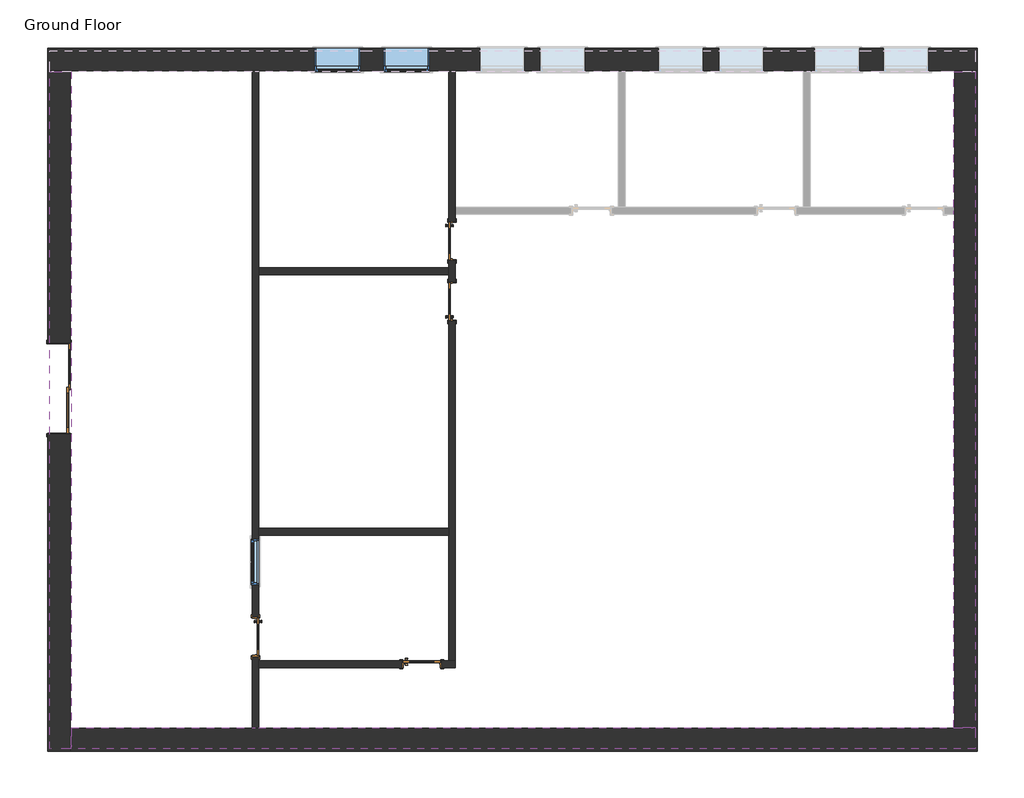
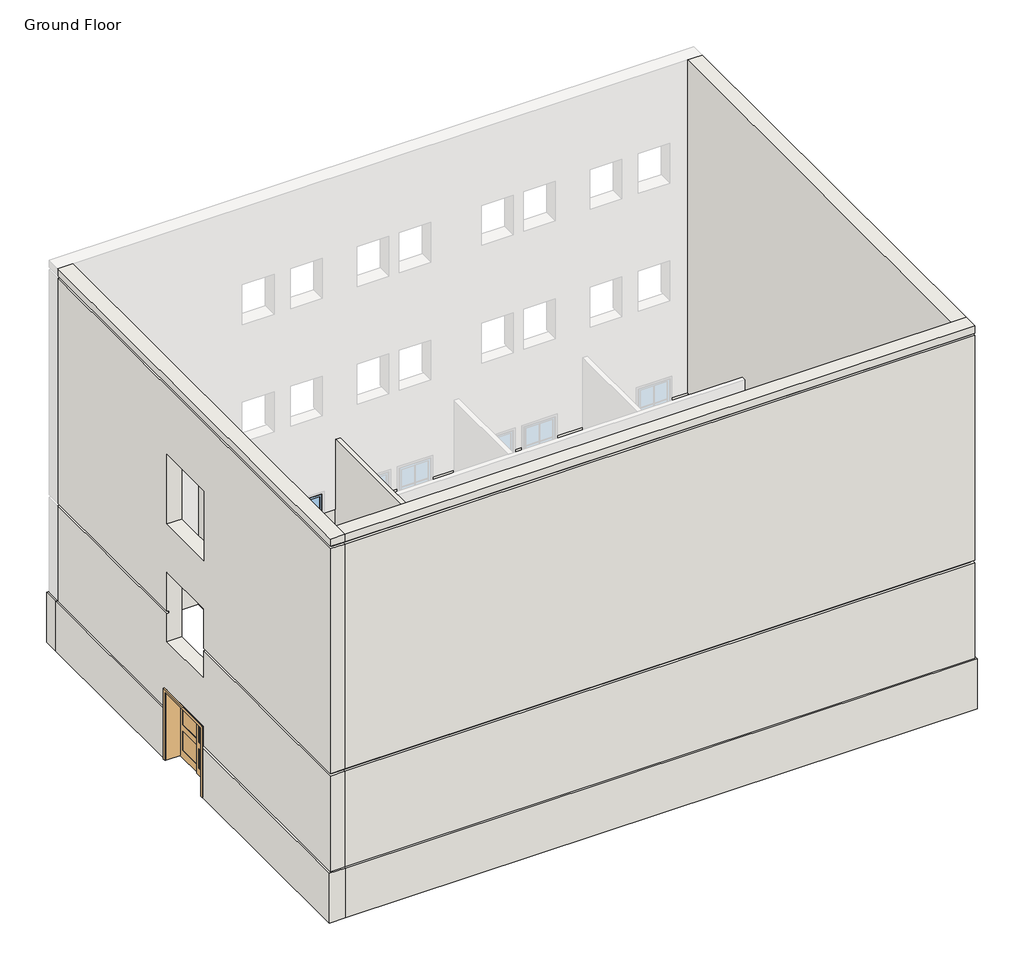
# One storey, part 1 of 2: 12 walls, 5 doors, 3 windows.
"""IFC4 building model written with IfcOpenShell, lengths in millimetres."""

from ifc_helpers import new_model, si_unit, origin, origin_with_axes, place, context, project, spatial, polyline, outline, extrude, faceted_brep, transform, mapped, element, save
from components import m_door_interior_double_sliding_2_panel_wood_1800_x_2100mm_ffb2e57d, m_door_interior_single_full_glass_wood_750_x_2100mm_ded28596, m_door_interior_single_full_glass_wood_750_x_2100mm_01f99739, window_awning_single_915_x_1220_b06b9331, window_awning_single_915_x_1220_806fc205

model = new_model("IFC4")

# Units and contexts
model_context = context("Model", 3, world=origin())
ifc_project = project(units=[si_unit("LENGTHUNIT", "METRE", prefix="MILLI")], contexts=[model_context])

# Site, building, storey
site = spatial("IfcSite", under=ifc_project)
building = spatial("IfcBuilding", under=site)
storey = spatial("IfcBuildingStorey", under=building, Name="Ground Floor", Elevation=0.0)

# Doors
placement = place(None, origin())
m_door_interior_double_sliding_2_panel_wood_1800_x_2100mm_shape = m_door_interior_double_sliding_2_panel_wood_1800_x_2100mm_ffb2e57d(model_context)
element("IfcDoor", 1, ObjectType="M_Door-Interior-Double-Sliding-2_Panel-Wood : 1800 x 2100mm", at=placement, inside=storey, context=model_context, shape_type="MappedRepresentation", body=[
    mapped(m_door_interior_double_sliding_2_panel_wood_1800_x_2100mm_shape, transform((-17269.6350037, -1306.0811162, 0.0), x_axis=(0.0, -1.0, 0.0), y_axis=(1.0, 0.0, 0.0), z_axis=(0.0, 0.0, 1.0))),
])
m_door_interior_single_full_glass_wood_750_x_2100mm_shape = m_door_interior_single_full_glass_wood_750_x_2100mm_ded28596(model_context)
element("IfcDoor", 2, ObjectType="M_Door-Interior-Single-Full Glass-Wood : 750 x 2100mm", at=placement, inside=storey, context=model_context, shape_type="MappedRepresentation", body=[
    mapped(m_door_interior_single_full_glass_wood_750_x_2100mm_shape, transform((-13307.6350037, -6311.9136534, 0.0), x_axis=(0.0, -1.0, 0.0), y_axis=(1.0, 0.0, 0.0), z_axis=(0.0, 0.0, 1.0))),
])
element("IfcDoor", 3, ObjectType="M_Door-Interior-Single-Full Glass-Wood : 750 x 2100mm", at=placement, inside=storey, context=model_context, shape_type="MappedRepresentation", body=[
    mapped(m_door_interior_single_full_glass_wood_750_x_2100mm_shape, transform((-9958.4100037, -6860.5886534, 0.0), x_axis=(1.0, 0.0, 0.0), y_axis=(0.0, 1.0, 0.0), z_axis=(0.0, 0.0, 1.0))),
])
element("IfcDoor", 4, ObjectType="M_Door-Interior-Single-Full Glass-Wood : 750 x 2100mm", at=placement, inside=storey, context=model_context, shape_type="MappedRepresentation", body=[
    mapped(m_door_interior_single_full_glass_wood_750_x_2100mm_shape, transform((-9351.9850037, 451.4363466, 0.0), x_axis=(0.0, 1.0, 0.0), y_axis=(-1.0, 0.0, 0.0), z_axis=(0.0, 0.0, 1.0))),
])
m_door_interior_single_full_glass_wood_750_x_2100mm_2_shape = m_door_interior_single_full_glass_wood_750_x_2100mm_01f99739(model_context)
element("IfcDoor", 5, ObjectType="M_Door-Interior-Single-Full Glass-Wood : 750 x 2100mm", at=placement, inside=storey, context=model_context, shape_type="MappedRepresentation", body=[
    mapped(m_door_interior_single_full_glass_wood_750_x_2100mm_2_shape, transform((-9351.9850037, 1670.6363466, 0.0), x_axis=(0.0, -1.0, 0.0), y_axis=(1.0, 0.0, 0.0), z_axis=(0.0, 0.0, 1.0))),
])

# Walls
element("IfcWall", 6, ObjectType="Exterior - Block on Mtl. Stud", at=placement, inside=storey, context=model_context, shape_type="Brep", body=[
    faceted_brep([(-17502.8100037, 5098.2363466, 0.0), (-17042.8100037, 5098.2363466, 0.0), (-13380.0600037, 5098.2363466, 0.0), (-13241.5600037, 5098.2363466, 0.0), (-9418.0600037, 5098.2363466, 0.0), (-9279.5600037, 5098.2363466, 0.0), (-5996.0100037, 5098.2363466, 0.0), (-5857.5100037, 5098.2363466, 0.0), (-2269.1600037, 5098.2363466, 0.0), (-2130.6600037, 5098.2363466, 0.0), (785.1899963, 5098.2363466, 0.0), (1245.1899963, 5098.2363466, 0.0), (1245.1899963, 5098.2363466, 1524.0), (785.1899963, 5098.2363466, 1524.0), (258.565007, 5098.2363466, 1524.0), (258.565007, 5098.2363466, 914.4), (-656.434993, 5098.2363466, 914.4), (-656.434993, 5098.2363466, 1524.0), (-1132.8100037, 5098.2363466, 1524.0), (-1132.8100037, 5098.2363466, 914.4), (-2047.8100037, 5098.2363466, 914.4), (-2047.8100037, 5098.2363466, 1524.0), (-2130.6600037, 5098.2363466, 1524.0), (-2269.1600037, 5098.2363466, 1524.0), (-3059.8100037, 5098.2363466, 1524.0), (-3059.8100037, 5098.2363466, 914.4), (-3974.8100037, 5098.2363466, 914.4), (-3974.8100037, 5098.2363466, 1524.0), (-4279.0100037, 5098.2363466, 1524.0), (-4279.0100037, 5098.2363466, 914.4), (-5194.0100037, 5098.2363466, 914.4), (-5194.0100037, 5098.2363466, 1524.0), (-5857.5100037, 5098.2363466, 1524.0), (-5996.0100037, 5098.2363466, 1524.0), (-6659.5100037, 5098.2363466, 1524.0), (-6659.5100037, 5098.2363466, 914.4), (-7574.5100037, 5098.2363466, 914.4), (-7574.5100037, 5098.2363466, 1524.0), (-7878.7100037, 5098.2363466, 1524.0), (-7878.7100037, 5098.2363466, 914.4), (-8793.7100037, 5098.2363466, 914.4), (-8793.7100037, 5098.2363466, 1524.0), (-9279.5600037, 5098.2363466, 1524.0), (-9418.0600037, 5098.2363466, 1524.0), (-9805.7100037, 5098.2363466, 1524.0), (-9805.7100037, 5098.2363466, 914.4), (-10720.7100037, 5098.2363466, 914.4), (-10720.7100037, 5098.2363466, 1524.0), (-11197.0850143, 5098.2363466, 1524.0), (-11197.0850143, 5098.2363466, 914.4), (-12112.0850143, 5098.2363466, 914.4), (-12112.0850143, 5098.2363466, 1524.0), (-13241.5600037, 5098.2363466, 1524.0), (-13380.0600037, 5098.2363466, 1524.0), (-17042.8100037, 5098.2363466, 1524.0), (-17502.8100037, 5098.2363466, 1524.0), (1245.1899963, 5558.2363466, 0.0), (-17502.8100037, 5558.2363466, 0.0), (-17502.8100037, 5558.2363466, 1524.0), (-12112.0850143, 5558.2363466, 1524.0), (-12112.0850143, 5558.2363466, 914.4), (-11197.0850143, 5558.2363466, 914.4), (-11197.0850143, 5558.2363466, 1524.0), (-10720.7100037, 5558.2363466, 1524.0), (-10720.7100037, 5558.2363466, 914.4), (-9805.7100037, 5558.2363466, 914.4), (-9805.7100037, 5558.2363466, 1524.0), (-8793.7100037, 5558.2363466, 1524.0), (-8793.7100037, 5558.2363466, 914.4), (-7878.7100037, 5558.2363466, 914.4), (-7878.7100037, 5558.2363466, 1524.0), (-7574.5100037, 5558.2363466, 1524.0), (-7574.5100037, 5558.2363466, 914.4), (-6659.5100037, 5558.2363466, 914.4), (-6659.5100037, 5558.2363466, 1524.0), (-5194.0100037, 5558.2363466, 1524.0), (-5194.0100037, 5558.2363466, 914.4), (-4279.0100037, 5558.2363466, 914.4), (-4279.0100037, 5558.2363466, 1524.0), (-3974.8100037, 5558.2363466, 1524.0), (-3974.8100037, 5558.2363466, 914.4), (-3059.8100037, 5558.2363466, 914.4), (-3059.8100037, 5558.2363466, 1524.0), (-2047.8100037, 5558.2363466, 1524.0), (-2047.8100037, 5558.2363466, 914.4), (-1132.8100037, 5558.2363466, 914.4), (-1132.8100037, 5558.2363466, 1524.0), (-656.434993, 5558.2363466, 1524.0), (-656.434993, 5558.2363466, 914.4), (258.565007, 5558.2363466, 914.4), (258.565007, 5558.2363466, 1524.0), (1245.1899963, 5558.2363466, 1524.0), (-12112.0850143, 5509.2363466, 1524.0), (258.565007, 5509.2363466, 1524.0), (-2047.8100037, 5509.2363466, 1524.0), (-3059.8100037, 5509.2363466, 1524.0), (-1132.8100037, 5509.2363466, 1524.0), (-656.434993, 5509.2363466, 1524.0), (-3974.8100037, 5509.2363466, 1524.0), (-4279.0100037, 5509.2363466, 1524.0), (-5194.0100037, 5509.2363466, 1524.0), (-6659.5100037, 5509.2363466, 1524.0), (-7574.5100037, 5509.2363466, 1524.0), (-7878.7100037, 5509.2363466, 1524.0), (-8793.7100037, 5509.2363466, 1524.0), (-9805.7100037, 5509.2363466, 1524.0), (-11197.0850143, 5509.2363466, 1524.0), (-10720.7100037, 5509.2363466, 1524.0)], [[[0, 1, 2, 3, 4, 5, 6, 7, 8, 9, 10, 11, 12, 13, 14, 15, 16, 17, 18, 19, 20, 21, 22, 23, 24, 25, 26, 27, 28, 29, 30, 31, 32, 33, 34, 35, 36, 37, 38, 39, 40, 41, 42, 43, 44, 45, 46, 47, 48, 49, 50, 51, 52, 53, 54, 55]], [[56, 57, 58, 59, 60, 61, 62, 63, 64, 65, 66, 67, 68, 69, 70, 71, 72, 73, 74, 75, 76, 77, 78, 79, 80, 81, 82, 83, 84, 85, 86, 87, 88, 89, 90, 91]], [[11, 10, 9, 8, 7, 6, 5, 4, 3, 2, 1, 0, 57, 56]], [[58, 55, 54, 53, 52, 51, 92, 59]], [[12, 91, 90, 93, 14, 13]], [[21, 94, 83, 82, 95, 24, 23, 22]], [[86, 96, 18, 17, 97, 87]], [[27, 98, 79, 78, 99, 28]], [[31, 100, 75, 74, 101, 34, 33, 32]], [[37, 102, 71, 70, 103, 38]], [[41, 104, 67, 66, 105, 44, 43, 42]], [[62, 106, 48, 47, 107, 63]], [[0, 55, 58, 57]], [[12, 11, 56, 91]], [[20, 84, 83, 94, 21]], [[84, 20, 19, 85]], [[85, 19, 18, 96, 86]], [[16, 88, 87, 97, 17]], [[88, 16, 15, 89]], [[89, 15, 14, 93, 90]], [[26, 80, 79, 98, 27]], [[80, 26, 25, 81]], [[81, 25, 24, 95, 82]], [[30, 76, 75, 100, 31]], [[76, 30, 29, 77]], [[77, 29, 28, 99, 78]], [[73, 35, 34, 101, 74]], [[35, 73, 72, 36]], [[36, 72, 71, 102, 37]], [[69, 39, 38, 103, 70]], [[39, 69, 68, 40]], [[40, 68, 67, 104, 41]], [[61, 49, 48, 106, 62]], [[49, 61, 60, 50]], [[50, 60, 59, 92, 51]], [[65, 45, 44, 105, 66]], [[45, 65, 64, 46]], [[46, 64, 63, 107, 47]]]),
])
element("IfcWall", 7, ObjectType="Exterior - Block on Mtl. Stud", at=placement, inside=storey, context=model_context, shape_type="Brep", body=[
    faceted_brep([(-17042.8100037, 5098.2363466, 0.0), (-17042.8100037, 5098.2363466, 1524.0), (-17042.8100037, -381.0811162, 1524.0), (-17042.8100037, -381.0811162, 0.0), (-17502.8100037, 5098.2363466, 1524.0), (-17502.8100037, 5098.2363466, 0.0), (-17502.8100037, -381.0811162, 0.0), (-17502.8100037, -381.0811162, 1524.0), (-17453.8100037, -381.0811162, 1524.0)], [[[0, 1, 2, 3]], [[4, 5, 6, 7]], [[5, 0, 3, 6]], [[1, 4, 7, 8, 2]], [[1, 0, 5, 4]], [[3, 2, 8, 7, 6]]]),
    faceted_brep([(-17042.8100037, -8617.7636534, 1524.0), (-17042.8100037, -8617.7636534, 0.0), (-17042.8100037, -8157.7636534, 0.0), (-17042.8100037, -2231.0811162, 0.0), (-17042.8100037, -2231.0811162, 1524.0), (-17042.8100037, -8157.7636534, 1524.0), (-17502.8100037, -8617.7636534, 0.0), (-17502.8100037, -8617.7636534, 1524.0), (-17502.8100037, -2231.0811162, 1524.0), (-17502.8100037, -2231.0811162, 0.0), (-17453.8100037, -2231.0811162, 1524.0)], [[[0, 1, 2, 3, 4, 5]], [[6, 7, 8, 9]], [[1, 6, 9, 3, 2]], [[7, 0, 5, 4, 10, 8]], [[1, 0, 7, 6]], [[4, 3, 9, 8, 10]]]),
])
element("IfcWall", 8, ObjectType="Exterior - Block on Mtl. Stud", at=placement, inside=storey, context=model_context, shape_type="Brep", body=[
    faceted_brep([(1245.1899963, -8157.7636534, 0.0), (785.1899963, -8157.7636534, 0.0), (-13241.5600037, -8157.7636534, 0.0), (-13380.0600037, -8157.7636534, 0.0), (-17042.8100037, -8157.7636534, 0.0), (-17042.8100037, -8157.7636534, 1524.0), (-13380.0600037, -8157.7636534, 1524.0), (-13241.5600037, -8157.7636534, 1524.0), (785.1899963, -8157.7636534, 1524.0), (1245.1899963, -8157.7636534, 1524.0), (1245.1899963, -8617.7636534, 0.0), (1245.1899963, -8617.7636534, 1524.0), (-17042.8100037, -8617.7636534, 1524.0), (-17042.8100037, -8617.7636534, 0.0)], [[[0, 1, 2, 3, 4, 5, 6, 7, 8, 9]], [[10, 11, 12, 13]], [[4, 3, 2, 1, 0, 10, 13]], [[9, 8, 7, 6, 5, 12, 11]], [[0, 9, 11, 10]], [[5, 4, 13, 12]]]),
])
element("IfcWall", 9, ObjectType="Exterior - Block on Mtl. Stud", at=placement, inside=storey, context=model_context, shape_type="Brep", body=[
    faceted_brep([(785.1899963, 5098.2363466, 0.0), (785.1899963, 2349.4863466, 0.0), (785.1899963, 2210.9863466, 0.0), (785.1899963, -8157.7636534, 0.0), (785.1899963, -8157.7636534, 1524.0), (785.1899963, 2210.9863466, 1524.0), (785.1899963, 2349.4863466, 1524.0), (785.1899963, 5098.2363466, 1524.0), (1245.1899963, 5098.2363466, 0.0), (1245.1899963, 5098.2363466, 1524.0), (1245.1899963, -8157.7636534, 1524.0), (1245.1899963, -8157.7636534, 0.0)], [[[0, 1, 2, 3, 4, 5, 6, 7]], [[8, 9, 10, 11]], [[3, 2, 1, 0, 8, 11]], [[7, 6, 5, 4, 10, 9]], [[0, 7, 9, 8]], [[4, 3, 11, 10]]]),
])
element("IfcWall", 10, ObjectType="Exterior - Render on Brick on Block", at=placement, inside=storey, context=model_context, shape_type="Brep", body=[
    faceted_brep([(-17024.8100037, 5080.2363466, 11700.0), (-17024.8100037, -8139.7636534, 11700.0), (-17024.8100037, -8568.7636534, 11700.0), (-17024.8100037, -8568.7636534, 11475.0), (-17024.8100037, -8493.7636534, 11475.0), (-17024.8100037, -8493.7636534, 11400.0), (-17024.8100037, -8568.7636534, 11400.0), (-17024.8100037, -8568.7636534, 4524.0), (-17024.8100037, -8493.7636534, 4524.0), (-17024.8100037, -8493.7636534, 4449.0), (-17024.8100037, -8568.7636534, 4449.0), (-17024.8100037, -8568.7636534, 1524.0), (-17024.8100037, -8139.7636534, 1524.0), (-17024.8100037, -2231.0811162, 1524.0), (-17024.8100037, -2231.0811162, 2125.0), (-17024.8100037, -381.0811162, 2125.0), (-17024.8100037, -381.0811162, 1524.0), (-17024.8100037, 5080.2363466, 1524.0), (-17024.8100037, -2231.0811162, 3600.0), (-17024.8100037, -2231.0811162, 5725.0), (-17024.8100037, -381.0811162, 5725.0), (-17024.8100037, -381.0811162, 3600.0), (-17024.8100037, -2231.0811162, 7200.0), (-17024.8100037, -2231.0811162, 9325.0), (-17024.8100037, -381.0811162, 9325.0), (-17024.8100037, -381.0811162, 7200.0), (-17453.8100037, -8568.7636534, 11700.0), (-17453.8100037, 5080.2363466, 11700.0), (-17453.8100037, 5080.2363466, 11475.0), (-17453.8100037, -8568.7636534, 11475.0), (-17453.8100037, -2231.0811162, 1524.0), (-17453.8100037, -8568.7636534, 1524.0), (-17453.8100037, -8568.7636534, 4449.0), (-17453.8100037, -2231.0811162, 4449.0), (-17453.8100037, -2231.0811162, 3600.0), (-17453.8100037, -381.0811162, 3600.0), (-17453.8100037, -381.0811162, 4449.0), (-17453.8100037, 5080.2363466, 4449.0), (-17453.8100037, 5080.2363466, 1524.0), (-17453.8100037, -381.0811162, 1524.0), (-17453.8100037, -381.0811162, 2125.0), (-17453.8100037, -2231.0811162, 2125.0), (-17453.8100037, -2231.0811162, 4524.0), (-17453.8100037, -8568.7636534, 4524.0), (-17453.8100037, -8568.7636534, 11400.0), (-17453.8100037, 5080.2363466, 11400.0), (-17453.8100037, 5080.2363466, 4524.0), (-17453.8100037, -381.0811162, 4524.0), (-17453.8100037, -381.0811162, 5725.0), (-17453.8100037, -2231.0811162, 5725.0), (-17453.8100037, -2231.0811162, 9325.0), (-17453.8100037, -2231.0811162, 7200.0), (-17453.8100037, -381.0811162, 7200.0), (-17453.8100037, -381.0811162, 9325.0), (-17428.8100037, -8568.7636534, 1524.0), (-17428.8100037, -2231.0811162, 1524.0), (-17042.8100037, -2231.0811162, 1524.0), (-17428.8100037, 5080.2363466, 1524.0), (-17042.8100037, -381.0811162, 1524.0), (-17428.8100037, -381.0811162, 1524.0), (-17378.8100037, -8493.7636534, 11400.0), (-17378.8100037, -8493.7636534, 11475.0), (-17378.8100037, 5080.2363466, 11475.0), (-17378.8100037, 5080.2363466, 11400.0), (-17378.8100037, 5080.2363466, 4449.0), (-17378.8100037, 5080.2363466, 4524.0), (-17378.8100037, -8493.7636534, 4524.0), (-17378.8100037, -2231.0811162, 4524.0), (-17378.8100037, -8493.7636534, 4449.0), (-17378.8100037, -2231.0811162, 4449.0), (-17378.8100037, -381.0811162, 4524.0), (-17378.8100037, -381.0811162, 4449.0)], [[[0, 1, 2, 3, 4, 5, 6, 7, 8, 9, 10, 11, 12, 13, 14, 15, 16, 17], [18, 19, 20, 21], [22, 23, 24, 25]], [[26, 27, 28, 29]], [[30, 31, 32, 33, 34, 35, 36, 37, 38, 39, 40, 41]], [[42, 43, 44, 45, 46, 47, 48, 49], [50, 51, 52, 53]], [[2, 1, 0, 27, 26]], [[11, 54, 55, 56, 13, 12]], [[57, 17, 16, 58, 59]], [[60, 61, 62, 63]], [[2, 26, 29, 3]], [[54, 11, 10, 32, 31]], [[43, 7, 6, 44]], [[0, 17, 57, 38, 37, 64, 65, 46, 45, 63, 62, 28, 27]], [[54, 31, 30, 55]], [[38, 57, 59, 39]], [[62, 61, 4, 3, 29, 28]], [[60, 63, 45, 44, 6, 5]], [[61, 60, 5, 4]], [[41, 14, 13, 56, 55, 30]], [[14, 41, 40, 15]], [[15, 40, 39, 59, 58, 16]], [[66, 8, 7, 43, 42, 67]], [[9, 68, 69, 33, 32, 10]], [[8, 66, 68, 9]], [[70, 65, 64, 71]], [[18, 34, 33, 69, 67, 42, 49, 19]], [[19, 49, 48, 20]], [[20, 48, 47, 70, 71, 36, 35, 21]], [[34, 18, 21, 35]], [[66, 67, 69, 68]], [[65, 70, 47, 46]], [[71, 64, 37, 36]], [[22, 51, 50, 23]], [[23, 50, 53, 24]], [[24, 53, 52, 25]], [[51, 22, 25, 52]]]),
])
element("IfcWall", 11, ObjectType="Exterior - Render on Brick on Block", at=placement, inside=storey, context=model_context, shape_type="Brep", body=[
    faceted_brep([(1196.1899963, -8139.7636534, 1524.0), (767.1899963, -8139.7636534, 1524.0), (-13241.5600037, -8139.7636534, 1524.0), (-13380.0600037, -8139.7636534, 1524.0), (-17024.8100037, -8139.7636534, 1524.0), (-17024.8100037, -8139.7636534, 11700.0), (767.1899963, -8139.7636534, 11700.0), (1196.1899963, -8139.7636534, 11700.0), (1196.1899963, -8139.7636534, 11475.0), (1121.1899963, -8139.7636534, 11475.0), (1121.1899963, -8139.7636534, 11400.0), (1196.1899963, -8139.7636534, 11400.0), (1196.1899963, -8139.7636534, 4524.0), (1121.1899963, -8139.7636534, 4524.0), (1121.1899963, -8139.7636534, 4449.0), (1196.1899963, -8139.7636534, 4449.0), (1196.1899963, -8568.7636534, 11700.0), (-17024.8100037, -8568.7636534, 11700.0), (-17024.8100037, -8568.7636534, 11475.0), (1196.1899963, -8568.7636534, 11475.0), (-17024.8100037, -8568.7636534, 1524.0), (1196.1899963, -8568.7636534, 1524.0), (1196.1899963, -8568.7636534, 4449.0), (-17024.8100037, -8568.7636534, 4449.0), (-17024.8100037, -8568.7636534, 4524.0), (1196.1899963, -8568.7636534, 4524.0), (1196.1899963, -8568.7636534, 11400.0), (-17024.8100037, -8568.7636534, 11400.0), (1196.1899963, -8543.7636534, 1524.0), (-17024.8100037, -8543.7636534, 1524.0), (1121.1899963, -8493.7636534, 11400.0), (1121.1899963, -8493.7636534, 11475.0), (-17024.8100037, -8493.7636534, 11475.0), (-17024.8100037, -8493.7636534, 11400.0), (-17024.8100037, -8493.7636534, 4449.0), (-17024.8100037, -8493.7636534, 4524.0), (1121.1899963, -8493.7636534, 4524.0), (1121.1899963, -8493.7636534, 4449.0)], [[[0, 1, 2, 3, 4, 5, 6, 7, 8, 9, 10, 11, 12, 13, 14, 15]], [[16, 17, 18, 19]], [[20, 21, 22, 23]], [[24, 25, 26, 27]], [[7, 6, 5, 17, 16]], [[4, 3, 2, 1, 0, 28, 29]], [[30, 31, 32, 33]], [[7, 16, 19, 8]], [[28, 0, 15, 22, 21]], [[25, 12, 11, 26]], [[5, 4, 29, 20, 23, 34, 35, 24, 27, 33, 32, 18, 17]], [[21, 20, 29, 28]], [[32, 31, 9, 8, 19, 18]], [[30, 33, 27, 26, 11, 10]], [[31, 30, 10, 9]], [[35, 36, 13, 12, 25, 24]], [[14, 37, 34, 23, 22, 15]], [[36, 37, 14, 13]], [[37, 36, 35, 34]]]),
])
element("IfcWall", 12, ObjectType="Exterior - Render on Brick on Block", at=placement, inside=storey, context=model_context, shape_type="Brep", body=[
    faceted_brep([(767.1899963, 5080.2363466, 1524.0), (767.1899963, 2349.4863466, 1524.0), (767.1899963, 2210.9863466, 1524.0), (767.1899963, -8139.7636534, 1524.0), (767.1899963, -8139.7636534, 11700.0), (767.1899963, 5080.2363466, 11700.0), (1196.1899963, 5080.2363466, 11700.0), (1196.1899963, -8139.7636534, 11700.0), (1196.1899963, -8139.7636534, 11475.0), (1196.1899963, 5080.2363466, 11475.0), (1196.1899963, -8139.7636534, 1524.0), (1196.1899963, 5080.2363466, 1524.0), (1196.1899963, 5080.2363466, 4449.0), (1196.1899963, -8139.7636534, 4449.0), (1196.1899963, -8139.7636534, 4524.0), (1196.1899963, 5080.2363466, 4524.0), (1196.1899963, 5080.2363466, 11400.0), (1196.1899963, -8139.7636534, 11400.0), (1171.1899963, 5080.2363466, 1524.0), (1171.1899963, -8139.7636534, 1524.0), (1121.1899963, -8139.7636534, 11400.0), (1121.1899963, 5080.2363466, 11400.0), (1121.1899963, 5080.2363466, 11475.0), (1121.1899963, -8139.7636534, 11475.0), (1121.1899963, 5080.2363466, 4524.0), (1121.1899963, 5080.2363466, 4449.0), (1121.1899963, -8139.7636534, 4449.0), (1121.1899963, -8139.7636534, 4524.0)], [[[0, 1, 2, 3, 4, 5]], [[6, 7, 8, 9]], [[10, 11, 12, 13]], [[14, 15, 16, 17]], [[5, 4, 7, 6]], [[3, 2, 1, 0, 18, 19]], [[20, 21, 22, 23]], [[0, 5, 6, 9, 22, 21, 16, 15, 24, 25, 12, 11, 18]], [[4, 3, 19, 10, 13, 26, 27, 14, 17, 20, 23, 8, 7]], [[11, 10, 19, 18]], [[23, 22, 9, 8]], [[21, 20, 17, 16]], [[27, 24, 15, 14]], [[25, 26, 13, 12]], [[24, 27, 26, 25]]]),
])
element("IfcWall", 13, ObjectType="Interior - 138mm Partition (1-hr)", at=placement, inside=storey, context=model_context, shape_type="Brep", body=[
    faceted_brep([(-13380.0600037, -8139.7636534, 3658.0), (-13380.0600037, 5080.2363466, 3658.0), (-13380.0600037, 5080.2363466, 1524.0), (-13380.0600037, 5098.2363466, 1524.0), (-13380.0600037, 5098.2363466, 0.0), (-13380.0600037, -5911.9136534, 0.0), (-13380.0600037, -5911.9136534, 2125.0), (-13380.0600037, -6711.9136534, 2125.0), (-13380.0600037, -6711.9136534, 0.0), (-13380.0600037, -8157.7636534, 0.0), (-13380.0600037, -8157.7636534, 1524.0), (-13380.0600037, -8139.7636534, 1524.0), (-13380.0600037, -4341.9136534, 2134.4), (-13380.0600037, -5256.9136534, 2134.4), (-13380.0600037, -5256.9136534, 914.4), (-13380.0600037, -4341.9136534, 914.4), (-13241.5600037, 5080.2363466, 3658.0), (-13241.5600037, 1130.2863466, 3658.0), (-13241.5600037, 991.7863466, 3658.0), (-13241.5600037, -4120.5636534, 3658.0), (-13241.5600037, -4259.0636534, 3658.0), (-13241.5600037, -6794.5136534, 3658.0), (-13241.5600037, -6933.0136534, 3658.0), (-13241.5600037, -8139.7636534, 3658.0), (-13241.5600037, -8139.7636534, 1524.0), (-13241.5600037, -8157.7636534, 1524.0), (-13241.5600037, -8157.7636534, 0.0), (-13241.5600037, -6933.0136534, 0.0), (-13241.5600037, -6794.5136534, 0.0), (-13241.5600037, -6711.9136534, 0.0), (-13241.5600037, -6711.9136534, 2125.0), (-13241.5600037, -5911.9136534, 2125.0), (-13241.5600037, -5911.9136534, 0.0), (-13241.5600037, -4259.0636534, 0.0), (-13241.5600037, -4120.5636534, 0.0), (-13241.5600037, 991.7863466, 0.0), (-13241.5600037, 1130.2863466, 0.0), (-13241.5600037, 5098.2363466, 0.0), (-13241.5600037, 5098.2363466, 1524.0), (-13241.5600037, 5080.2363466, 1524.0), (-13241.5600037, -4341.9136534, 2134.4), (-13241.5600037, -4341.9136534, 914.4), (-13241.5600037, -5256.9136534, 914.4), (-13241.5600037, -5256.9136534, 2134.4)], [[[0, 1, 2, 3, 4, 5, 6, 7, 8, 9, 10, 11], [12, 13, 14, 15]], [[16, 17, 18, 19, 20, 21, 22, 23, 24, 25, 26, 27, 28, 29, 30, 31, 32, 33, 34, 35, 36, 37, 38, 39], [40, 41, 42, 43]], [[4, 37, 36, 35, 34, 33, 32, 5]], [[26, 9, 8, 29, 28, 27]], [[1, 0, 23, 22, 21, 20, 19, 18, 17, 16]], [[39, 38, 3, 2]], [[4, 3, 38, 37]], [[2, 1, 16, 39]], [[11, 10, 25, 24]], [[10, 9, 26, 25]], [[0, 11, 24, 23]], [[7, 30, 29, 8]], [[30, 7, 6, 31]], [[31, 6, 5, 32]], [[41, 40, 12, 15]], [[42, 41, 15, 14]], [[43, 42, 14, 13]], [[40, 43, 13, 12]]]),
])
element("IfcWall", 14, ObjectType="Interior - 138mm Partition (1-hr)", at=placement, inside=storey, context=model_context, shape_type="Brep", body=[
    faceted_brep([(-9279.5600037, -6933.0136534, 3658.0), (-13241.5600037, -6933.0136534, 3658.0), (-13241.5600037, -6933.0136534, 0.0), (-10358.4100037, -6933.0136534, 0.0), (-10358.4100037, -6933.0136534, 2125.0), (-9558.4100037, -6933.0136534, 2125.0), (-9558.4100037, -6933.0136534, 0.0), (-9279.5600037, -6933.0136534, 0.0), (-13241.5600037, -6794.5136534, 3658.0), (-9418.0600037, -6794.5136534, 3658.0), (-9279.5600037, -6794.5136534, 3658.0), (-9279.5600037, -6794.5136534, 0.0), (-9418.0600037, -6794.5136534, 0.0), (-9558.4100037, -6794.5136534, 0.0), (-9558.4100037, -6794.5136534, 2125.0), (-10358.4100037, -6794.5136534, 2125.0), (-10358.4100037, -6794.5136534, 0.0), (-13241.5600037, -6794.5136534, 0.0)], [[[0, 1, 2, 3, 4, 5, 6, 7]], [[8, 9, 10, 11, 12, 13, 14, 15, 16, 17]], [[2, 17, 16, 3]], [[11, 7, 6, 13, 12]], [[1, 0, 10, 9, 8]], [[2, 1, 8, 17]], [[0, 7, 11, 10]], [[5, 14, 13, 6]], [[14, 5, 4, 15]], [[15, 4, 3, 16]]]),
])
element("IfcWall", 15, ObjectType="Interior - 138mm Partition (1-hr)", at=placement, inside=storey, context=model_context, shape_type="Brep", body=[
    faceted_brep([(-9279.5600037, 5080.2363466, 3658.0), (-9279.5600037, 2349.4863466, 3658.0), (-9279.5600037, 2210.9863466, 3658.0), (-9279.5600037, -6794.5136534, 3658.0), (-9279.5600037, -6794.5136534, 0.0), (-9279.5600037, 51.4363466, 0.0), (-9279.5600037, 51.4363466, 2125.0), (-9279.5600037, 851.4363466, 2125.0), (-9279.5600037, 851.4363466, 0.0), (-9279.5600037, 1270.6363466, 0.0), (-9279.5600037, 1270.6363466, 2125.0), (-9279.5600037, 2070.6363466, 2125.0), (-9279.5600037, 2070.6363466, 0.0), (-9279.5600037, 2210.9863466, 0.0), (-9279.5600037, 2349.4863466, 0.0), (-9279.5600037, 5098.2363466, 0.0), (-9279.5600037, 5098.2363466, 1524.0), (-9279.5600037, 5080.2363466, 1524.0), (-9418.0600037, -6794.5136534, 3658.0), (-9418.0600037, -4259.0636534, 3658.0), (-9418.0600037, -4120.5636534, 3658.0), (-9418.0600037, 991.7863466, 3658.0), (-9418.0600037, 1130.2863466, 3658.0), (-9418.0600037, 5080.2363466, 3658.0), (-9418.0600037, 5080.2363466, 1524.0), (-9418.0600037, 5098.2363466, 1524.0), (-9418.0600037, 5098.2363466, 0.0), (-9418.0600037, 2070.6363466, 0.0), (-9418.0600037, 2070.6363466, 2125.0), (-9418.0600037, 1270.6363466, 2125.0), (-9418.0600037, 1270.6363466, 0.0), (-9418.0600037, 1130.2863466, 0.0), (-9418.0600037, 991.7863466, 0.0), (-9418.0600037, 851.4363466, 0.0), (-9418.0600037, 851.4363466, 2125.0), (-9418.0600037, 51.4363466, 2125.0), (-9418.0600037, 51.4363466, 0.0), (-9418.0600037, -4120.5636534, 0.0), (-9418.0600037, -4259.0636534, 0.0), (-9418.0600037, -6794.5136534, 0.0)], [[[0, 1, 2, 3, 4, 5, 6, 7, 8, 9, 10, 11, 12, 13, 14, 15, 16, 17]], [[18, 19, 20, 21, 22, 23, 24, 25, 26, 27, 28, 29, 30, 31, 32, 33, 34, 35, 36, 37, 38, 39]], [[4, 39, 38, 37, 36, 5]], [[26, 15, 14, 13, 12, 27]], [[8, 33, 32, 31, 30, 9]], [[3, 2, 1, 0, 23, 22, 21, 20, 19, 18]], [[4, 3, 18, 39]], [[17, 16, 25, 24]], [[16, 15, 26, 25]], [[0, 17, 24, 23]], [[7, 34, 33, 8]], [[34, 7, 6, 35]], [[35, 6, 5, 36]], [[29, 10, 9, 30]], [[10, 29, 28, 11]], [[11, 28, 27, 12]]]),
])
element("IfcWall", 16, ObjectType="Interior - 138mm Partition (1-hr)", at=placement, inside=storey, context=model_context, shape_type="SweptSolid", body=[
    extrude(outline(polyline([(-9418.0600037, 991.7863466), (-13241.5600037, 991.7863466), (-13241.5600037, 1130.2863466), (-9418.0600037, 1130.2863466), (-9418.0600037, 991.7863466)])), origin_with_axes(), (0.0, 0.0, 1.0), 3658.0),
])
element("IfcWall", 17, ObjectType="Interior - 138mm Partition (1-hr)", at=placement, inside=storey, context=model_context, shape_type="SweptSolid", body=[
    extrude(outline(polyline([(-9418.0600037, -4259.0636534), (-13241.5600037, -4259.0636534), (-13241.5600037, -4120.5636534), (-9418.0600037, -4120.5636534), (-9418.0600037, -4259.0636534)])), origin_with_axes(), (0.0, 0.0, 1.0), 3658.0),
])

# Windows
window_awning_single_915_x_1220_shape = window_awning_single_915_x_1220_b06b9331(model_context)
element("IfcWindow", 18, ObjectType="Window-Awning-Single : 915 X 1220", at=placement, inside=storey, context=model_context, shape_type="MappedRepresentation", body=[
    mapped(window_awning_single_915_x_1220_shape, transform((-13310.8100037, -4799.4136534, 0.0), x_axis=(0.0, 1.0, 0.0), y_axis=(-1.0, 0.0, 0.0), z_axis=(0.0, 0.0, 1.0))),
])
window_awning_single_915_x_1220_2_shape = window_awning_single_915_x_1220_806fc205(model_context)
element("IfcWindow", 19, ObjectType="Window-Awning-Single : 915 X 1220", at=placement, inside=storey, context=model_context, shape_type="MappedRepresentation", body=[
    mapped(window_awning_single_915_x_1220_2_shape, transform((-10263.2100037, 5328.2363466, 0.0), x_axis=(1.0, 0.0, 0.0), y_axis=(0.0, 1.0, 0.0), z_axis=(0.0, 0.0, 1.0))),
])
element("IfcWindow", 20, ObjectType="Window-Awning-Single : 915 X 1220", at=placement, inside=storey, context=model_context, shape_type="MappedRepresentation", body=[
    mapped(window_awning_single_915_x_1220_2_shape, transform((-11654.5850143, 5328.2363466, 0.0), x_axis=(1.0, 0.0, 0.0), y_axis=(0.0, 1.0, 0.0), z_axis=(0.0, 0.0, 1.0))),
])

save(model, "model.ifc")
